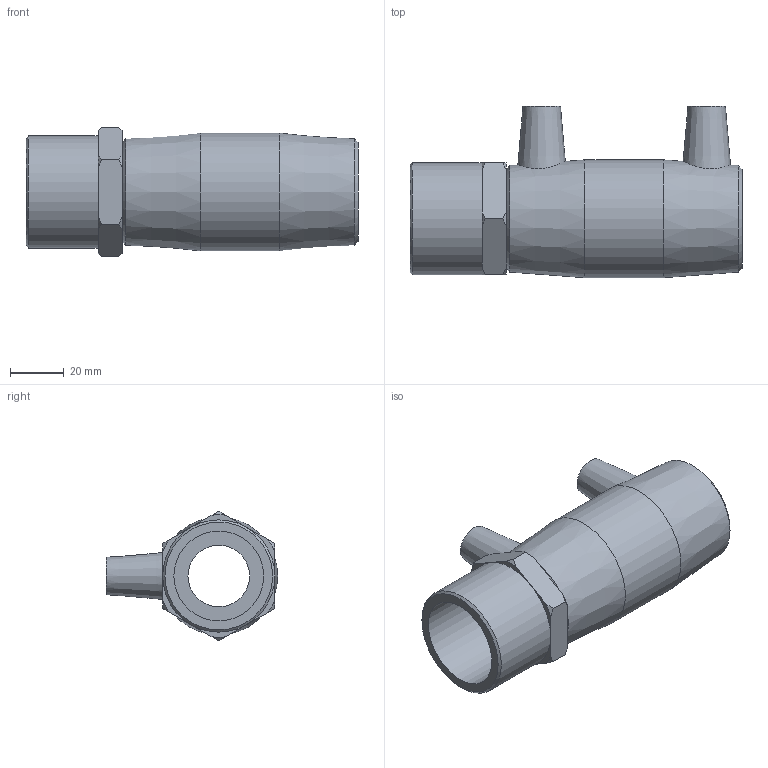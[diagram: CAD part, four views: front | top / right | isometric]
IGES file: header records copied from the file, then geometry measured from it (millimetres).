
Global section: file name: 492104032013.ipt; native system: Autodesk Inventor 2015; preprocessor: unknown; author: KIM; date: 20200202.122306; units: millimetre
Bounding box: 124 x 64 x 48.4 mm (x, y, z)
Volume: 98853.3 mm3; surface area: 35275.2 mm2
Topology: 1 solids, 2 shells, 54 faces, 129 edges, 88 vertices
Faces by surface type: plane 21, cone 19, revolution 8, cylinder 6
Full cylindrical faces by diameter (mm): 4 x2, 32 x2, 41.91 x1, 44 x1
